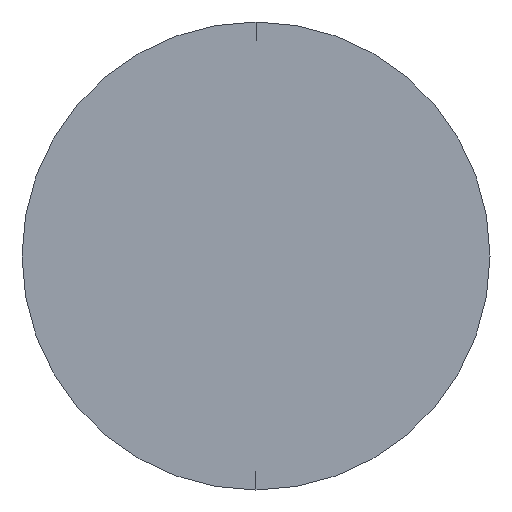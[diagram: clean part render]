
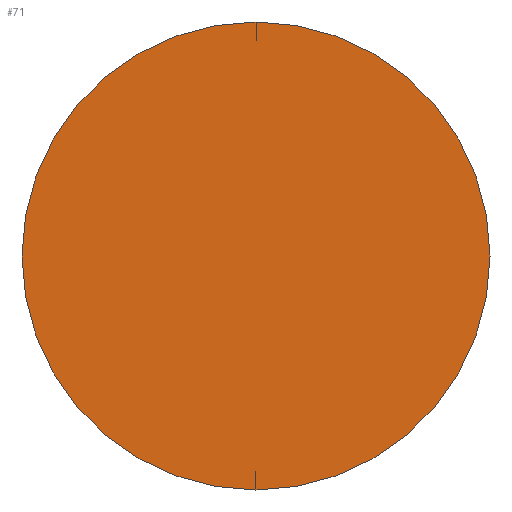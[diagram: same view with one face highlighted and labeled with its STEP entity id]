
A CAD part, left-side view. The second image highlights one B-rep face of the part: STEP entity #71.
In plain terms, the highlighted planar face has unit normal (-1, 0, 0).
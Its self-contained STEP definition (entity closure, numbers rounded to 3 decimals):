
#15 = VERTEX_POINT ( 'NONE', #107 ) ;
#21 = CARTESIAN_POINT ( 'NONE',  ( 0., 0., 0. ) ) ;
#34 = AXIS2_PLACEMENT_3D ( 'NONE', #140, #128, #199 ) ;
#37 = AXIS2_PLACEMENT_3D ( 'NONE', #21, #112, #110 ) ;
#40 = VERTEX_POINT ( 'NONE', #229 ) ;
#50 = EDGE_LOOP ( 'NONE', ( #196, #250 ) ) ;
#55 = PLANE ( 'NONE',  #34 ) ;
#71 = ADVANCED_FACE ( 'NONE', ( #191 ), #55, .F. ) ;
#87 = CIRCLE ( 'NONE', #37, 1. ) ;
#99 = DIRECTION ( 'NONE',  ( 0., 0., 1. ) ) ;
#107 = CARTESIAN_POINT ( 'NONE',  ( 0., 0., 1. ) ) ;
#110 = DIRECTION ( 'NONE',  ( 0., 0., 1. ) ) ;
#112 = DIRECTION ( 'NONE',  ( -1., 0., 0. ) ) ;
#117 = CIRCLE ( 'NONE', #238, 1. ) ;
#128 = DIRECTION ( 'NONE',  ( 1., 0., 0. ) ) ;
#139 = EDGE_CURVE ( 'NONE', #40, #15, #117, .T. ) ;
#140 = CARTESIAN_POINT ( 'NONE',  ( 0., 0., 0. ) ) ;
#182 = CARTESIAN_POINT ( 'NONE',  ( 0., 0., 0. ) ) ;
#191 = FACE_OUTER_BOUND ( 'NONE', #50, .T. ) ;
#196 = ORIENTED_EDGE ( 'NONE', *, *, #271, .T. ) ;
#199 = DIRECTION ( 'NONE',  ( 0., 0., -1. ) ) ;
#229 = CARTESIAN_POINT ( 'NONE',  ( 0., 0., -1. ) ) ;
#238 = AXIS2_PLACEMENT_3D ( 'NONE', #182, #256, #99 ) ;
#250 = ORIENTED_EDGE ( 'NONE', *, *, #139, .T. ) ;
#256 = DIRECTION ( 'NONE',  ( -1., 0., 0. ) ) ;
#271 = EDGE_CURVE ( 'NONE', #15, #40, #87, .T. ) ;
